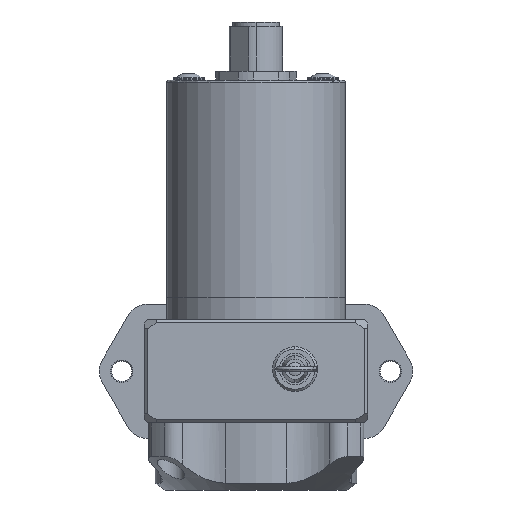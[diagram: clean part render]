
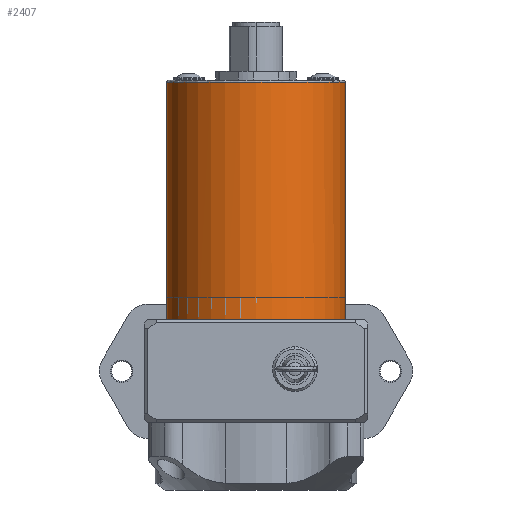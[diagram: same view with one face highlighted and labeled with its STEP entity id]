
A CAD part, front view. The second image highlights one B-rep face of the part: STEP entity #2407.
In plain terms, the highlighted cylindrical face has radius 20 mm (diameter 40 mm), a partial arc.
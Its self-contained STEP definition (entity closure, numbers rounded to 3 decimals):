
#2094 = VERTEX_POINT ( 'NONE', #5172 ) ;
#2119 = VERTEX_POINT ( 'NONE', #5250 ) ;
#2123 = EDGE_CURVE ( 'NONE', #2125, #2119, #5247, .T. ) ;
#2125 = VERTEX_POINT ( 'NONE', #5236 ) ;
#2134 = EDGE_CURVE ( 'NONE', #2169, #2213, #5280, .T. ) ;
#2169 = VERTEX_POINT ( 'NONE', #5420 ) ;
#2207 = EDGE_CURVE ( 'NONE', #2125, #2094, #5621, .T. ) ;
#2213 = VERTEX_POINT ( 'NONE', #5608 ) ;
#2385 = EDGE_CURVE ( 'NONE', #2213, #2094, #6545, .T. ) ;
#2406 = EDGE_CURVE ( 'NONE', #2119, #2169, #6630, .T. ) ;
#2407 = ADVANCED_FACE ( 'NONE', ( #6675 ), #6660, .T. ) ;
#2408 = EDGE_LOOP ( 'NONE', ( #2457, #2460, #2462, #2464, #2467 ) ) ;
#2457 = ORIENTED_EDGE ( 'NONE', *, *, #2207, .F. ) ;
#2460 = ORIENTED_EDGE ( 'NONE', *, *, #2123, .T. ) ;
#2462 = ORIENTED_EDGE ( 'NONE', *, *, #2406, .T. ) ;
#2464 = ORIENTED_EDGE ( 'NONE', *, *, #2134, .T. ) ;
#2467 = ORIENTED_EDGE ( 'NONE', *, *, #2385, .T. ) ;
#5172 = CARTESIAN_POINT ( 'NONE',  ( 20., 0., 23. ) ) ;
#5236 = CARTESIAN_POINT ( 'NONE',  ( 20., 0., 76. ) ) ;
#5237 = DIRECTION ( 'NONE',  ( -1., 0., 0. ) ) ;
#5238 = DIRECTION ( 'NONE',  ( 0., 0., -1. ) ) ;
#5239 = CARTESIAN_POINT ( 'NONE',  ( 0., 0., 76. ) ) ;
#5240 = AXIS2_PLACEMENT_3D ( 'NONE', #5239, #5238, #5237 ) ;
#5247 = CIRCLE ( 'NONE', #5240, 20. ) ;
#5250 = CARTESIAN_POINT ( 'NONE',  ( 20., -0.092, 76. ) ) ;
#5272 = DIRECTION ( 'NONE',  ( 0., 0., -1. ) ) ;
#5273 = VECTOR ( 'NONE', #5272, 1000. ) ;
#5274 = CARTESIAN_POINT ( 'NONE',  ( -20., 0., 28. ) ) ;
#5280 = LINE ( 'NONE', #5274, #5273 ) ;
#5420 = CARTESIAN_POINT ( 'NONE',  ( -20., 0., 76. ) ) ;
#5608 = CARTESIAN_POINT ( 'NONE',  ( -20., 0., 23. ) ) ;
#5618 = DIRECTION ( 'NONE',  ( 0., 0., -1. ) ) ;
#5619 = VECTOR ( 'NONE', #5618, 1000. ) ;
#5620 = CARTESIAN_POINT ( 'NONE',  ( 20., 0., 28. ) ) ;
#5621 = LINE ( 'NONE', #5620, #5619 ) ;
#6541 = DIRECTION ( 'NONE',  ( -1., 0., 0. ) ) ;
#6542 = DIRECTION ( 'NONE',  ( 0., 0., 1. ) ) ;
#6543 = CARTESIAN_POINT ( 'NONE',  ( 0., 0., 23. ) ) ;
#6544 = AXIS2_PLACEMENT_3D ( 'NONE', #6543, #6542, #6541 ) ;
#6545 = CIRCLE ( 'NONE', #6544, 20. ) ;
#6624 = DIRECTION ( 'NONE',  ( 0., 0., -1. ) ) ;
#6625 = CARTESIAN_POINT ( 'NONE',  ( 0., 0., 76. ) ) ;
#6626 = AXIS2_PLACEMENT_3D ( 'NONE', #6625, #6624, #6676 ) ;
#6630 = CIRCLE ( 'NONE', #6626, 20. ) ;
#6656 = DIRECTION ( 'NONE',  ( -1., 0., 0. ) ) ;
#6657 = DIRECTION ( 'NONE',  ( 0., 0., -1. ) ) ;
#6658 = CARTESIAN_POINT ( 'NONE',  ( 0., 0., 28. ) ) ;
#6659 = AXIS2_PLACEMENT_3D ( 'NONE', #6658, #6657, #6656 ) ;
#6660 = CYLINDRICAL_SURFACE ( 'NONE', #6659, 20. ) ;
#6675 = FACE_OUTER_BOUND ( 'NONE', #2408, .T. ) ;
#6676 = DIRECTION ( 'NONE',  ( -1., 0., 0. ) ) ;
